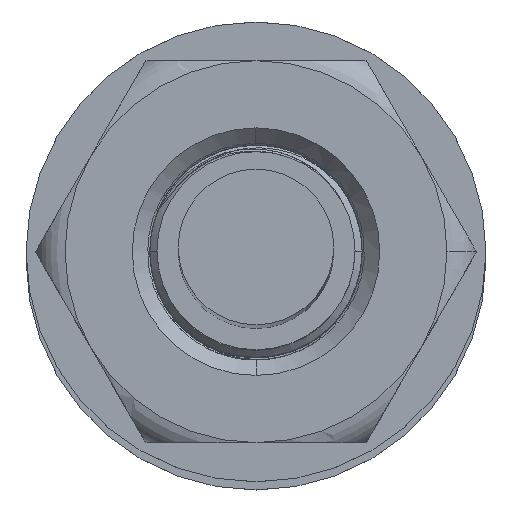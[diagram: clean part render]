
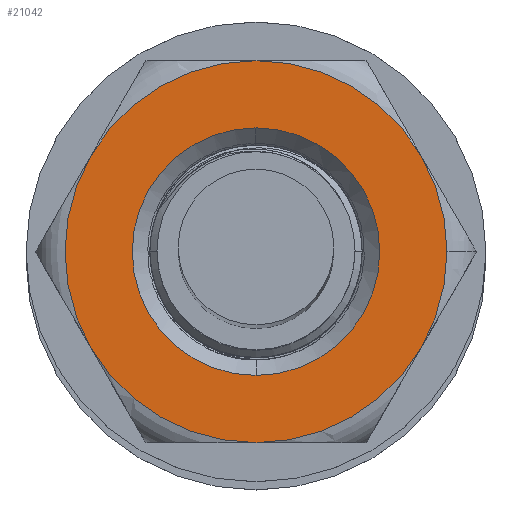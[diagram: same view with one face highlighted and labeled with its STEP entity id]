
A CAD part, top view. The second image highlights one B-rep face of the part: STEP entity #21042.
In plain terms, the highlighted planar face has unit normal (0, 0, 1) as drawn and (0, -1, 0) by its records, which use the part's own axes.
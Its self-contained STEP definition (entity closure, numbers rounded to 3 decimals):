
#5 = ORIENTED_EDGE ( 'NONE', *, *, #16913, .F. ) ;
#262 = AXIS2_PLACEMENT_3D ( 'NONE', #22055, #14872, #10245 ) ;
#1503 = DIRECTION ( 'NONE',  ( 0., 0., 1. ) ) ;
#1803 = CIRCLE ( 'NONE', #22156, 2.7 ) ;
#2344 = CARTESIAN_POINT ( 'NONE',  ( 0., -1., 0. ) ) ;
#3283 = CARTESIAN_POINT ( 'NONE',  ( 0., -1., 0. ) ) ;
#3559 = DIRECTION ( 'NONE',  ( 0., 1., 0. ) ) ;
#4484 = CIRCLE ( 'NONE', #22293, 1.75 ) ;
#4578 = CARTESIAN_POINT ( 'NONE',  ( 0., -1., 0. ) ) ;
#4583 = DIRECTION ( 'NONE',  ( 0., 0., 1. ) ) ;
#4811 = CARTESIAN_POINT ( 'NONE',  ( 2.338, -1., 1.35 ) ) ;
#4887 = DIRECTION ( 'NONE',  ( 0., 0., 1. ) ) ;
#5554 = EDGE_CURVE ( 'NONE', #23769, #6233, #8713, .T. ) ;
#5833 = CIRCLE ( 'NONE', #262, 1.75 ) ;
#5890 = VERTEX_POINT ( 'NONE', #14864 ) ;
#5985 = CARTESIAN_POINT ( 'NONE',  ( -2.338, -1., -1.35 ) ) ;
#6233 = VERTEX_POINT ( 'NONE', #16119 ) ;
#6546 = AXIS2_PLACEMENT_3D ( 'NONE', #2344, #7122, #4887 ) ;
#6582 = CARTESIAN_POINT ( 'NONE',  ( 0., -1., -2.7 ) ) ;
#6942 = DIRECTION ( 'NONE',  ( 1., 0., 0. ) ) ;
#6969 = DIRECTION ( 'NONE',  ( 0., 0., 1. ) ) ;
#7122 = DIRECTION ( 'NONE',  ( 0., 1., 0. ) ) ;
#8033 = CARTESIAN_POINT ( 'NONE',  ( 0., -1., 0. ) ) ;
#8529 = FACE_BOUND ( 'NONE', #16988, .T. ) ;
#8713 = CIRCLE ( 'NONE', #17873, 2.7 ) ;
#9329 = CARTESIAN_POINT ( 'NONE',  ( 0., -1., 0. ) ) ;
#10245 = DIRECTION ( 'NONE',  ( 0., 0., 1. ) ) ;
#10247 = VERTEX_POINT ( 'NONE', #19303 ) ;
#10401 = CIRCLE ( 'NONE', #15491, 2.7 ) ;
#10523 = CARTESIAN_POINT ( 'NONE',  ( 0., -1., 2.7 ) ) ;
#10708 = ORIENTED_EDGE ( 'NONE', *, *, #17716, .T. ) ;
#10746 = ORIENTED_EDGE ( 'NONE', *, *, #5554, .F. ) ;
#11719 = DIRECTION ( 'NONE',  ( 0., 1., 0. ) ) ;
#11735 = DIRECTION ( 'NONE',  ( 0., 0., 1. ) ) ;
#13306 = DIRECTION ( 'NONE',  ( 0., 0., 1. ) ) ;
#13418 = VERTEX_POINT ( 'NONE', #26512 ) ;
#13466 = AXIS2_PLACEMENT_3D ( 'NONE', #3283, #13633, #13306 ) ;
#13490 = VERTEX_POINT ( 'NONE', #10523 ) ;
#13607 = DIRECTION ( 'NONE',  ( 0., 1., 0. ) ) ;
#13633 = DIRECTION ( 'NONE',  ( 0., 1., 0. ) ) ;
#13974 = DIRECTION ( 'NONE',  ( 0., 1., 0. ) ) ;
#14108 = CARTESIAN_POINT ( 'NONE',  ( 0., -1., 0. ) ) ;
#14864 = CARTESIAN_POINT ( 'NONE',  ( 0., -1., 1.75 ) ) ;
#14872 = DIRECTION ( 'NONE',  ( 0., 1., 0. ) ) ;
#15491 = AXIS2_PLACEMENT_3D ( 'NONE', #26107, #13974, #6969 ) ;
#16018 = AXIS2_PLACEMENT_3D ( 'NONE', #14108, #11719, #23682 ) ;
#16119 = CARTESIAN_POINT ( 'NONE',  ( -2.338, -1., 1.35 ) ) ;
#16354 = DIRECTION ( 'NONE',  ( 0., 1., 0. ) ) ;
#16399 = EDGE_LOOP ( 'NONE', ( #19795, #27862, #10746, #28607, #5, #16962, #24696 ) ) ;
#16531 = CIRCLE ( 'NONE', #17051, 2.7 ) ;
#16636 = VERTEX_POINT ( 'NONE', #21631 ) ;
#16913 = EDGE_CURVE ( 'NONE', #16636, #18039, #10401, .T. ) ;
#16962 = ORIENTED_EDGE ( 'NONE', *, *, #19703, .F. ) ;
#16988 = EDGE_LOOP ( 'NONE', ( #27392, #10708 ) ) ;
#17051 = AXIS2_PLACEMENT_3D ( 'NONE', #18908, #30724, #4583 ) ;
#17544 = CIRCLE ( 'NONE', #16018, 2.7 ) ;
#17587 = DIRECTION ( 'NONE',  ( 0., 0., 1. ) ) ;
#17716 = EDGE_CURVE ( 'NONE', #5890, #10247, #5833, .T. ) ;
#17873 = AXIS2_PLACEMENT_3D ( 'NONE', #21269, #13607, #1503 ) ;
#18039 = VERTEX_POINT ( 'NONE', #6582 ) ;
#18567 = DIRECTION ( 'NONE',  ( 0., -1., 0. ) ) ;
#18908 = CARTESIAN_POINT ( 'NONE',  ( 0., -1., 0. ) ) ;
#19303 = CARTESIAN_POINT ( 'NONE',  ( 0., -1., -1.75 ) ) ;
#19703 = EDGE_CURVE ( 'NONE', #13418, #16636, #16531, .T. ) ;
#19795 = ORIENTED_EDGE ( 'NONE', *, *, #21167, .T. ) ;
#21042 = ADVANCED_FACE ( 'NONE', ( #8529, #27990 ), #25119, .F. ) ;
#21167 = EDGE_CURVE ( 'NONE', #25947, #13490, #1803, .T. ) ;
#21231 = EDGE_CURVE ( 'NONE', #6233, #13490, #17544, .T. ) ;
#21269 = CARTESIAN_POINT ( 'NONE',  ( 0., -1., 0. ) ) ;
#21631 = CARTESIAN_POINT ( 'NONE',  ( 2.338, -1., -1.35 ) ) ;
#22055 = CARTESIAN_POINT ( 'NONE',  ( 0., -1., 0. ) ) ;
#22156 = AXIS2_PLACEMENT_3D ( 'NONE', #9329, #18567, #6942 ) ;
#22293 = AXIS2_PLACEMENT_3D ( 'NONE', #8033, #3559, #17587 ) ;
#22339 = AXIS2_PLACEMENT_3D ( 'NONE', #4578, #16354, #11735 ) ;
#23682 = DIRECTION ( 'NONE',  ( 0., 0., 1. ) ) ;
#23769 = VERTEX_POINT ( 'NONE', #5985 ) ;
#24696 = ORIENTED_EDGE ( 'NONE', *, *, #28472, .F. ) ;
#25119 = PLANE ( 'NONE',  #13466 ) ;
#25888 = CIRCLE ( 'NONE', #6546, 2.7 ) ;
#25947 = VERTEX_POINT ( 'NONE', #4811 ) ;
#26107 = CARTESIAN_POINT ( 'NONE',  ( 0., -1., 0. ) ) ;
#26512 = CARTESIAN_POINT ( 'NONE',  ( 2.7, -1., 0. ) ) ;
#27358 = EDGE_CURVE ( 'NONE', #10247, #5890, #4484, .T. ) ;
#27392 = ORIENTED_EDGE ( 'NONE', *, *, #27358, .T. ) ;
#27862 = ORIENTED_EDGE ( 'NONE', *, *, #21231, .F. ) ;
#27990 = FACE_OUTER_BOUND ( 'NONE', #16399, .T. ) ;
#28472 = EDGE_CURVE ( 'NONE', #25947, #13418, #25888, .T. ) ;
#28607 = ORIENTED_EDGE ( 'NONE', *, *, #31295, .F. ) ;
#29472 = CIRCLE ( 'NONE', #22339, 2.7 ) ;
#30724 = DIRECTION ( 'NONE',  ( 0., 1., 0. ) ) ;
#31295 = EDGE_CURVE ( 'NONE', #18039, #23769, #29472, .T. ) ;
